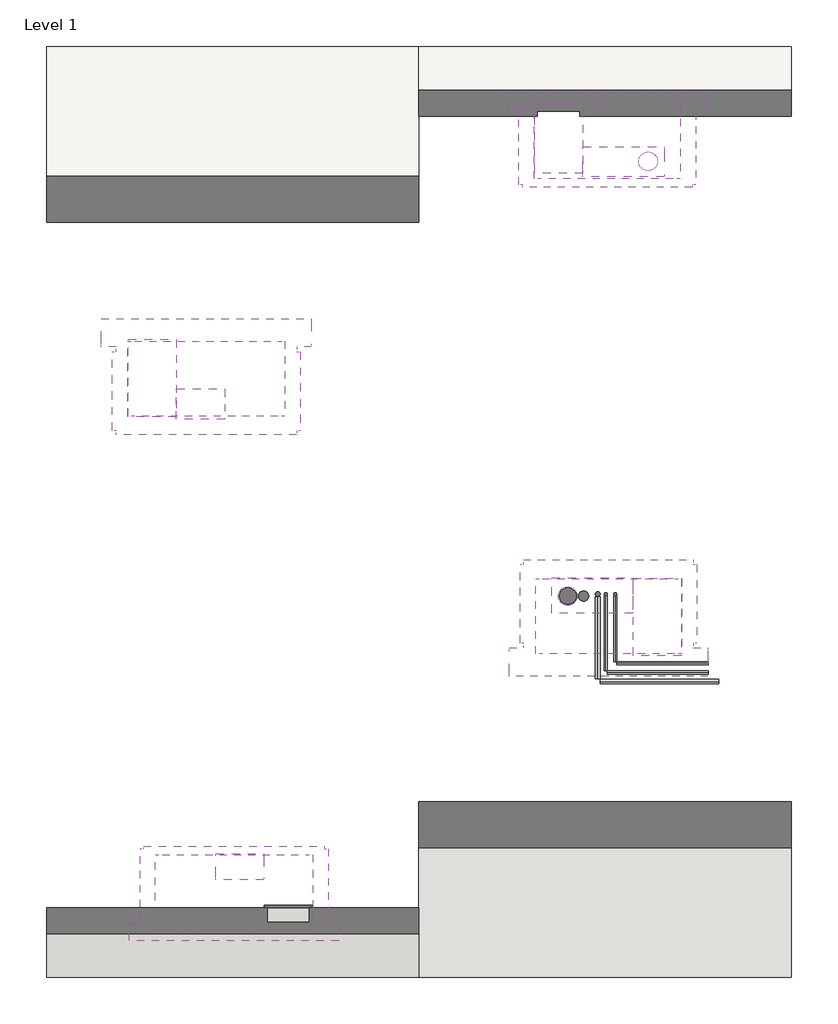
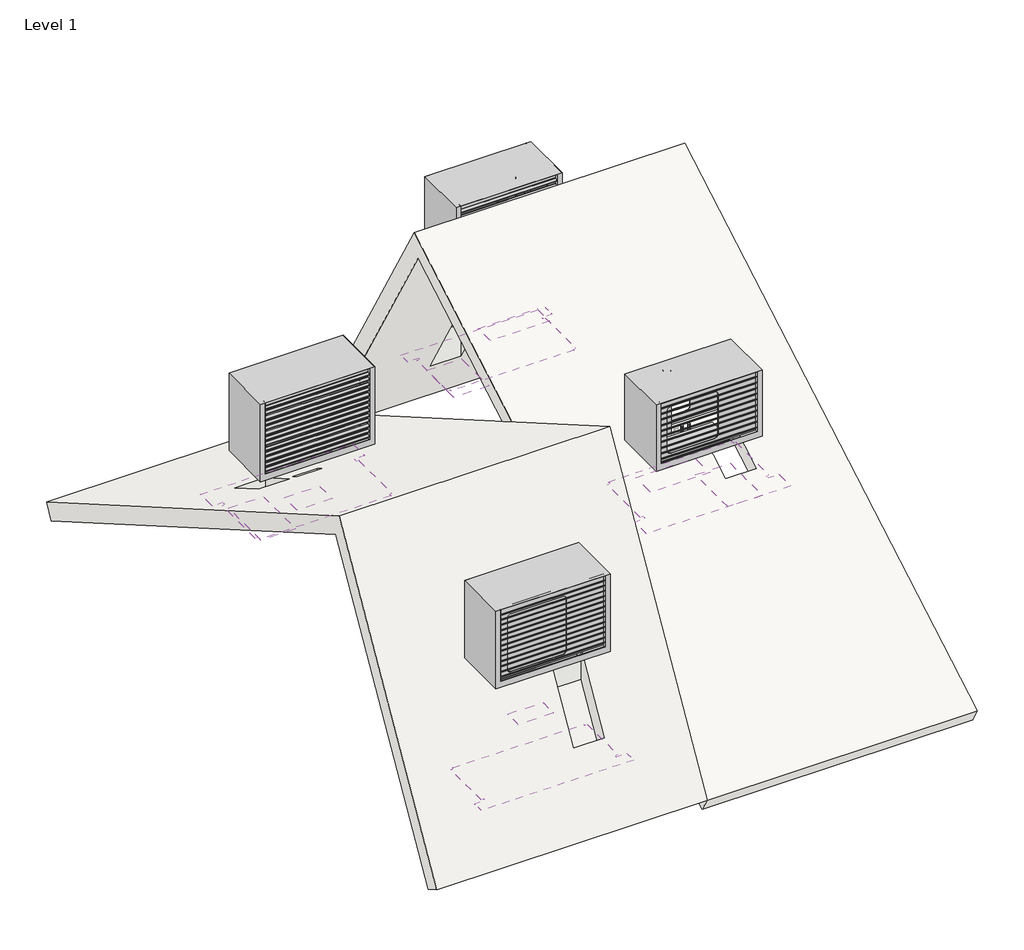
# One storey, incomplete: 12 coverings, 12 pipe segments, 4 unitary equipment elements, 2 roofs, 1 duct segment.
"""IFC4 building model written with IfcOpenShell, lengths in millimetres."""

from ifc_helpers import new_model, si_unit, point, frame, frame_2d, origin, place, context, project, spatial, circle_curve, trimmed, segment, composite_curve, outline, extrude, faceted_brep, transform, mapped, element, save
from components import covering_13abd7a2, covering_e1946cb7, covering_832741f2, covering_2f231527, covering_ebfa055f, covering_0022e7d6, covering_44cbcef2, covering_237e270b, inspection_panel_dda_a83ceb8f, inspection_panel_dda_93841c41, pipe_segment_adc9d0ba, delta_discovery_air_bdbf6794, delta_discovery_air_83ad3b17, delta_discovery_air_xl_f5126de7, delta_discovery_air_xl_14b97afa

model = new_model("IFC4")

# Units and contexts
model_context = context("Model", 3, world=origin())
ifc_project = project(units=[si_unit("LENGTHUNIT", "METRE", prefix="MILLI")], contexts=[model_context])

# Site, building, storey
site = spatial("IfcSite", under=ifc_project)
building = spatial("IfcBuilding", under=site)
storey = spatial("IfcBuildingStorey", under=building, Name="Level 1", Elevation=0.0)

# Coverings
placement = place(None, origin())
covering_shape = covering_13abd7a2(model_context)
element("IfcCovering", 1, ObjectType="MG_BPC_Delta Discovery Air_mountingbox-PA_M&G : mountingbox DDA", at=placement, inside=storey, context=model_context, shape_type="MappedRepresentation", body=[
    mapped(covering_shape, transform((8348.9996074, -2790.8188759, 2443.4405917), x_axis=(0.0, 1.0, 0.0), y_axis=(-1.0, 0.0, 0.0), z_axis=(0.0, 0.0, 1.0))),
])
covering_2_shape = covering_e1946cb7(model_context)
element("IfcCovering", 2, ObjectType="MG_BPC_Delta Discovery Air_mountingbox-PA_M&G : mountingbox DDA-XL", at=placement, inside=storey, context=model_context, shape_type="MappedRepresentation", body=[
    mapped(covering_2_shape, transform((4325.6169231, -5757.5859079, 1391.7305412), x_axis=(0.0, 1.0, 0.0), y_axis=(-1.0, 0.0, 0.0), z_axis=(0.0, 0.0, 1.0))),
])
covering_3_shape = covering_832741f2(model_context)
element("IfcCovering", 3, ObjectType="MG_BPC_Delta Discovery Air_mountingbox-PA_M&G : mountingbox DDA", at=placement, inside=storey, context=model_context, shape_type="MappedRepresentation", body=[
    mapped(covering_3_shape, transform((8335.5299691, 2993.325922, 1571.7305412), x_axis=(0.0, -1.0, 0.0), y_axis=(1.0, 0.0, 0.0), z_axis=(0.0, 0.0, 1.0))),
])
covering_4_shape = covering_2f231527(model_context)
element("IfcCovering", 4, ObjectType="MG_BPC_Delta Discovery Air_mountingbox-PA_M&G : mountingbox DDA-XL", at=placement, inside=storey, context=model_context, shape_type="MappedRepresentation", body=[
    mapped(covering_4_shape, transform((4028.9796779, 442.2510838, 2263.4405917), x_axis=(0.0, -1.0, 0.0), y_axis=(1.0, 0.0, 0.0), z_axis=(0.0, 0.0, 1.0))),
])
covering_5_shape = covering_ebfa055f(model_context)
element("IfcCovering", 5, ObjectType="MG_BPC_Delta Discovery Air_roofboard-PA_M&G : roofboard DDA", at=placement, inside=storey, context=model_context, shape_type="MappedRepresentation", body=[
    mapped(covering_5_shape, transform((8173.9996074, -2235.3633269, 2475.4617163), x_axis=(0.0, 1.0, 0.0), y_axis=(-1.0, 0.0, 0.0), z_axis=(0.0, 0.0, 1.0))),
])
covering_6_shape = covering_0022e7d6(model_context)
element("IfcCovering", 6, ObjectType="MG_BPC_Delta Discovery Air_roofboard-PA_M&G : roofboard DDA-XL", at=placement, inside=storey, context=model_context, shape_type="MappedRepresentation", body=[
    mapped(covering_6_shape, transform((4387.1169231, -5151.0925738, 1942.219356), x_axis=(0.0, 1.0, 0.0), y_axis=(-1.0, 0.0, 0.0), z_axis=(0.0, 0.0, 1.0))),
])
covering_7_shape = covering_44cbcef2(model_context)
element("IfcCovering", 7, ObjectType="MG_BPC_Delta Discovery Air_roofboard-PA_M&G : roofboard DDA", at=placement, inside=storey, context=model_context, shape_type="MappedRepresentation", body=[
    mapped(covering_7_shape, transform((8510.5299691, 2441.3325879, 2027.822587), x_axis=(0.0, -1.0, 0.0), y_axis=(1.0, 0.0, 0.0), z_axis=(0.0, 0.0, 1.0))),
])
covering_8_shape = covering_237e270b(model_context)
element("IfcCovering", 8, ObjectType="MG_BPC_Delta Discovery Air_roofboard-PA_M&G : roofboard DDA-XL", at=placement, inside=storey, context=model_context, shape_type="MappedRepresentation", body=[
    mapped(covering_8_shape, transform((3967.4796779, -166.4650275, 2326.2117163), x_axis=(0.0, -1.0, 0.0), y_axis=(1.0, 0.0, 0.0), z_axis=(0.0, 0.0, 1.0))),
])
inspection_panel_dda_shape = inspection_panel_dda_a83ceb8f(model_context)
element("IfcCovering", 9, ObjectType="MG_BPC_Delta Discovery Air_insp panel-PA_M&G : inspection panel DDA", at=placement, inside=storey, context=model_context, shape_type="MappedRepresentation", body=[
    mapped(inspection_panel_dda_shape, transform((4908.1169231, -5435.0925738, 1450.3169266), x_axis=(0.0, 1.0000000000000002, 0.0), y_axis=(-1.0000000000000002, 0.0, 0.0), z_axis=(0.0, 0.0, 1.0))),
])
element("IfcCovering", 10, ObjectType="MG_BPC_Delta Discovery Air_insp panel-PA_M&G : inspection panel DDA", at=placement, inside=storey, context=model_context, shape_type="MappedRepresentation", body=[
    mapped(inspection_panel_dda_shape, transform((7813.0299691, 2670.8325879, 1630.3169266), x_axis=(0.0, -1.0000000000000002, 0.0), y_axis=(1.0000000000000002, 0.0, 0.0), z_axis=(0.0, 0.0, 1.0))),
])
inspection_panel_dda_2_shape = inspection_panel_dda_93841c41(model_context)
element("IfcCovering", 11, ObjectType="MG_BPC_Delta Discovery Air_insp panel-PA_M&G : inspection panel DDA", at=placement, inside=storey, context=model_context, shape_type="MappedRepresentation", body=[
    mapped(inspection_panel_dda_2_shape, transform((8871.4996074, -2464.4270462, 2343.2117163), x_axis=(0.0, 1.0000000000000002, 0.0), y_axis=(-1.0000000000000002, 0.0, 0.0), z_axis=(0.0, 0.0, 1.0))),
])
element("IfcCovering", 12, ObjectType="MG_BPC_Delta Discovery Air_insp panel-PA_M&G : inspection panel DDA", at=placement, inside=storey, context=model_context, shape_type="MappedRepresentation", body=[
    mapped(inspection_panel_dda_2_shape, transform((3446.4796779, 115.8592541, 2163.2117163), x_axis=(0.0, -1.0000000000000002, 0.0), y_axis=(1.0000000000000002, 0.0, 0.0), z_axis=(0.0, 0.0, 1.0))),
])

# Duct segment
element("IfcDuctSegment", 13, ObjectType="Default", at=placement, inside=storey, context=model_context, shape_type="SweptSolid", body=[
    extrude(outline(composite_curve([segment(trimmed(circle_curve(frame_2d((7910.9996074, -2233.8255417)), 90.0), [point((7910.9996074, -2143.8255417))], [point((8000.9996074, -2233.8255417))], False, "CARTESIAN"), True, "CONTINUOUS"), segment(trimmed(circle_curve(frame_2d((7910.9996074, -2233.8255417)), 90.0), [point((8000.9996074, -2233.8255417))], [point((7910.9996074, -2323.8255417))], False, "CARTESIAN"), True, "CONTINUOUS"), segment(trimmed(circle_curve(frame_2d((7910.9996074, -2233.8255417)), 90.0), [point((7910.9996074, -2323.8255417))], [point((7820.9996074, -2233.8255417))], False, "CARTESIAN"), True, "CONTINUOUS"), segment(trimmed(circle_curve(frame_2d((7910.9996074, -2233.8255417)), 90.0), [point((7820.9996074, -2233.8255417))], [point((7910.9996074, -2143.8255417))], False, "CARTESIAN"), True, "CONTINUOUS")], self_intersect=False)), frame((0.0, 0.0, 464.2186654), z_axis=(0.0, 0.0, 1.0), x_axis=(1.0, 0.0, 0.0)), (0.0, 0.0, 1.0), 1600.0),
])

# Pipe segments
pipe_segment_shape = pipe_segment_adc9d0ba(model_context)
element("IfcPipeSegment", 14, ObjectType="MG_BPC_Delta Discovery Air_pipe extension set-PA_M&G : pipe ext set L=1000mm", at=placement, inside=storey, context=model_context, shape_type="MappedRepresentation", body=[
    mapped(pipe_segment_shape, transform((7910.9996074, -2233.8255417, 3064.2186654), x_axis=(1.0, 0.0, 0.0), y_axis=(0.0, 1.0, 0.0), z_axis=(0.0, 0.0, 1.0))),
])
element("IfcPipeSegment", 15, ObjectType="MG_BPC_Delta Discovery Air_pipe extension set-PA_M&G : pipe ext set L=1000mm", at=placement, inside=storey, context=model_context, shape_type="MappedRepresentation", body=[
    mapped(pipe_segment_shape, transform((8773.5299691, 2436.3325879, 3064.2186654), x_axis=(-1.0, 0.0, 0.0), y_axis=(0.0, -1.0, 0.0), z_axis=(0.0, 0.0, 1.0))),
])
element("IfcPipeSegment", 16, ObjectType="design HDPE", at=placement, inside=storey, context=model_context, shape_type="SweptSolid", body=[
    extrude(outline(composite_curve([segment(trimmed(circle_curve(frame_2d((0.0, 25.0)), 25.0), [point((25.0, 25.0))], [point((0.0, 0.0))], False, "CARTESIAN"), True, "CONTINUOUS"), segment(trimmed(circle_curve(frame_2d((0.0, 25.0)), 25.0), [point((0.0, 0.0))], [point((-25.0, 25.0))], False, "CARTESIAN"), True, "CONTINUOUS"), segment(trimmed(circle_curve(frame_2d((0.0, 25.0)), 25.0), [point((-25.0, 25.0))], [point((0.0, 50.0))], False, "CARTESIAN"), True, "CONTINUOUS"), segment(trimmed(circle_curve(frame_2d((0.0, 25.0)), 25.0), [point((0.0, 50.0))], [point((25.0, 25.0))], False, "CARTESIAN"), True, "CONTINUOUS")], self_intersect=False)), frame((8233.1483535, -3123.4864625, 79.9105492), z_axis=(0.0, 0.9998875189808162, 0.01499831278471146), x_axis=(1.0, 0.0, 0.0)), (0.0, 0.0, 1.0), 882.8884207),
])
element("IfcPipeSegment", 17, ObjectType="design HDPE", at=placement, inside=storey, context=model_context, shape_type="SweptSolid", body=[
    extrude(outline(composite_curve([segment(trimmed(circle_curve(frame_2d((0.0, 25.0)), 25.0), [point((0.0, 50.0))], [point((25.0, 25.0))], False, "CARTESIAN"), True, "CONTINUOUS"), segment(trimmed(circle_curve(frame_2d((0.0, 25.0)), 25.0), [point((25.0, 25.0))], [point((0.0, 0.0))], False, "CARTESIAN"), True, "CONTINUOUS"), segment(trimmed(circle_curve(frame_2d((0.0, 25.0)), 25.0), [point((0.0, 0.0))], [point((-25.0, 25.0))], False, "CARTESIAN"), True, "CONTINUOUS"), segment(trimmed(circle_curve(frame_2d((0.0, 25.0)), 25.0), [point((-25.0, 25.0))], [point((0.0, 50.0))], False, "CARTESIAN"), True, "CONTINUOUS")], self_intersect=False)), frame((9532.7089192, -3176.1083553, 35.0), z_axis=(-0.9998875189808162, 0.0, 0.014998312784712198), x_axis=(0.014998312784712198, 0.0, 0.9998875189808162)), (0.0, 0.0, 1.0), 1271.706758),
])
element("IfcPipeSegment", 18, ObjectType="design HDPE", at=placement, inside=storey, context=model_context, shape_type="SweptSolid", body=[
    extrude(outline(composite_curve([segment(trimmed(circle_curve(frame_2d((8232.9996074, -2212.3255417)), 25.0), [point((8257.9996074, -2212.3255417))], [point((8232.9996074, -2237.3255417))], False, "CARTESIAN"), True, "CONTINUOUS"), segment(trimmed(circle_curve(frame_2d((8232.9996074, -2212.3255417)), 25.0), [point((8232.9996074, -2237.3255417))], [point((8207.9996074, -2212.3255417))], False, "CARTESIAN"), True, "CONTINUOUS"), segment(trimmed(circle_curve(frame_2d((8232.9996074, -2212.3255417)), 25.0), [point((8207.9996074, -2212.3255417))], [point((8232.9996074, -2187.3255417))], False, "CARTESIAN"), True, "CONTINUOUS"), segment(trimmed(circle_curve(frame_2d((8232.9996074, -2212.3255417)), 25.0), [point((8232.9996074, -2187.3255417))], [point((8257.9996074, -2212.3255417))], False, "CARTESIAN"), True, "CONTINUOUS")], self_intersect=False)), frame((0.0, 0.0, 96.5751507), z_axis=(0.0, 0.0, 1.0), x_axis=(1.0, 0.0, 0.0)), (0.0, 0.0, 1.0), 1967.6435147),
])
element("IfcPipeSegment", 19, ObjectType="design HDPE", at=placement, inside=storey, context=model_context, shape_type="SweptSolid", body=[
    extrude(outline(composite_curve([segment(trimmed(circle_curve(frame_2d((8080.9996074, -2233.8255417)), 55.0), [point((8135.9996074, -2233.8255417))], [point((8080.9996074, -2288.8255417))], False, "CARTESIAN"), True, "CONTINUOUS"), segment(trimmed(circle_curve(frame_2d((8080.9996074, -2233.8255417)), 55.0), [point((8080.9996074, -2288.8255417))], [point((8025.9996074, -2233.8255417))], False, "CARTESIAN"), True, "CONTINUOUS"), segment(trimmed(circle_curve(frame_2d((8080.9996074, -2233.8255417)), 55.0), [point((8025.9996074, -2233.8255417))], [point((8080.9996074, -2178.8255417))], False, "CARTESIAN"), True, "CONTINUOUS"), segment(trimmed(circle_curve(frame_2d((8080.9996074, -2233.8255417)), 55.0), [point((8080.9996074, -2178.8255417))], [point((8135.9996074, -2233.8255417))], False, "CARTESIAN"), True, "CONTINUOUS")], self_intersect=False)), frame((0.0, 0.0, 264.2186654), z_axis=(0.0, 0.0, 1.0), x_axis=(1.0, 0.0, 0.0)), (0.0, 0.0, 1.0), 1800.0),
])
element("IfcPipeSegment", 20, ObjectType="design steel pipes", at=placement, inside=storey, context=model_context, shape_type="SweptSolid", body=[
    extrude(outline(composite_curve([segment(trimmed(circle_curve(frame_2d((8419.9996074, -2212.3255417)), 16.85), [point((8436.8496074, -2212.3255417))], [point((8419.9996074, -2229.1755417))], False, "CARTESIAN"), True, "CONTINUOUS"), segment(trimmed(circle_curve(frame_2d((8419.9996074, -2212.3255417)), 16.85), [point((8419.9996074, -2229.1755417))], [point((8403.1496074, -2212.3255417))], False, "CARTESIAN"), True, "CONTINUOUS"), segment(trimmed(circle_curve(frame_2d((8419.9996074, -2212.3255417)), 16.85), [point((8403.1496074, -2212.3255417))], [point((8419.9996074, -2195.4755417))], False, "CARTESIAN"), True, "CONTINUOUS"), segment(trimmed(circle_curve(frame_2d((8419.9996074, -2212.3255417)), 16.85), [point((8419.9996074, -2195.4755417))], [point((8436.8496074, -2212.3255417))], False, "CARTESIAN"), True, "CONTINUOUS")], self_intersect=False)), frame((0.0, 0.0, 42.5), z_axis=(0.0, 0.0, 1.0), x_axis=(1.0, 0.0, 0.0)), (0.0, 0.0, 1.0), 3013.9759803),
])
element("IfcPipeSegment", 21, ObjectType="design steel pipes", at=placement, inside=storey, context=model_context, shape_type="SweptSolid", body=[
    extrude(outline(composite_curve([segment(trimmed(circle_curve(frame_2d((25.0, 8419.9996074)), 16.85), [point((25.0, 8403.1496074))], [point((8.15, 8419.9996074))], False, "CARTESIAN"), True, "CONTINUOUS"), segment(trimmed(circle_curve(frame_2d((25.0, 8419.9996074)), 16.85), [point((8.15, 8419.9996074))], [point((25.0, 8436.8496074))], False, "CARTESIAN"), True, "CONTINUOUS"), segment(trimmed(circle_curve(frame_2d((25.0, 8419.9996074)), 16.85), [point((25.0, 8436.8496074))], [point((41.85, 8419.9996074))], False, "CARTESIAN"), True, "CONTINUOUS"), segment(trimmed(circle_curve(frame_2d((25.0, 8419.9996074)), 16.85), [point((41.85, 8419.9996074))], [point((25.0, 8403.1496074))], False, "CARTESIAN"), True, "CONTINUOUS")], self_intersect=False)), frame((0.0, -2937.1300034, 0.0), z_axis=(0.0, 1.0, 0.0), x_axis=(0.0, 0.0, 1.0)), (0.0, 0.0, 1.0), 707.3044617),
])
element("IfcPipeSegment", 22, ObjectType="design steel pipes", at=placement, inside=storey, context=model_context, shape_type="SweptSolid", body=[
    extrude(outline(composite_curve([segment(trimmed(circle_curve(frame_2d((0.0, 16.8499999)), 16.85), [point((-16.85, 16.8499999))], [point((0.0, 33.6999999))], False, "CARTESIAN"), True, "CONTINUOUS"), segment(trimmed(circle_curve(frame_2d((0.0, 16.8499999)), 16.85), [point((0.0, 33.6999999))], [point((16.85, 16.8499999))], False, "CARTESIAN"), True, "CONTINUOUS"), segment(trimmed(circle_curve(frame_2d((0.0, 16.8499999)), 16.85), [point((16.85, 16.8499999))], [point((0.0, 0.0))], False, "CARTESIAN"), True, "CONTINUOUS"), segment(trimmed(circle_curve(frame_2d((0.0, 16.8499999)), 16.85), [point((0.0, 0.0))], [point((-16.85, 16.8499999))], False, "CARTESIAN"), True, "CONTINUOUS")], self_intersect=False)), frame((8437.5000121, -2954.6300034, 8.1504204), z_axis=(0.9999999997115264, 0.0, 2.401972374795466e-05), x_axis=(0.0, 1.0, 0.0)), (0.0, 0.0, 1.0), 982.5446402),
])
element("IfcPipeSegment", 23, ObjectType="design steel pipes", at=placement, inside=storey, context=model_context, shape_type="SweptSolid", body=[
    extrude(outline(composite_curve([segment(trimmed(circle_curve(frame_2d((8319.9996074, -2212.3255417)), 16.85), [point((8303.1496074, -2212.3255417))], [point((8319.9996074, -2195.4755417))], False, "CARTESIAN"), True, "CONTINUOUS"), segment(trimmed(circle_curve(frame_2d((8319.9996074, -2212.3255417)), 16.85), [point((8319.9996074, -2195.4755417))], [point((8336.8496074, -2212.3255417))], False, "CARTESIAN"), True, "CONTINUOUS"), segment(trimmed(circle_curve(frame_2d((8319.9996074, -2212.3255417)), 16.85), [point((8336.8496074, -2212.3255417))], [point((8319.9996074, -2229.1755417))], False, "CARTESIAN"), True, "CONTINUOUS"), segment(trimmed(circle_curve(frame_2d((8319.9996074, -2212.3255417)), 16.85), [point((8319.9996074, -2229.1755417))], [point((8303.1496074, -2212.3255417))], False, "CARTESIAN"), True, "CONTINUOUS")], self_intersect=False)), frame((0.0, 0.0, 42.5), z_axis=(0.0, 0.0, 1.0), x_axis=(1.0, 0.0, 0.0)), (0.0, 0.0, 1.0), 3013.9759803),
])
element("IfcPipeSegment", 24, ObjectType="design steel pipes", at=placement, inside=storey, context=model_context, shape_type="SweptSolid", body=[
    extrude(outline(composite_curve([segment(trimmed(circle_curve(frame_2d((25.0, 8319.9996074)), 16.85), [point((25.0, 8303.1496074))], [point((8.15, 8319.9996074))], False, "CARTESIAN"), True, "CONTINUOUS"), segment(trimmed(circle_curve(frame_2d((25.0, 8319.9996074)), 16.85), [point((8.15, 8319.9996074))], [point((25.0, 8336.8496074))], False, "CARTESIAN"), True, "CONTINUOUS"), segment(trimmed(circle_curve(frame_2d((25.0, 8319.9996074)), 16.85), [point((25.0, 8336.8496074))], [point((41.85, 8319.9996074))], False, "CARTESIAN"), True, "CONTINUOUS"), segment(trimmed(circle_curve(frame_2d((25.0, 8319.9996074)), 16.85), [point((41.85, 8319.9996074))], [point((25.0, 8303.1496074))], False, "CARTESIAN"), True, "CONTINUOUS")], self_intersect=False)), frame((0.0, -3037.1300034, 0.0), z_axis=(0.0, 1.0, 0.0), x_axis=(0.0, 0.0, 1.0)), (0.0, 0.0, 1.0), 807.3044617),
])
element("IfcPipeSegment", 25, ObjectType="design steel pipes", at=placement, inside=storey, context=model_context, shape_type="SweptSolid", body=[
    extrude(outline(composite_curve([segment(trimmed(circle_curve(frame_2d((0.0, 16.8499999)), 16.85), [point((-16.85, 16.8499999))], [point((0.0, 33.6999999))], False, "CARTESIAN"), True, "CONTINUOUS"), segment(trimmed(circle_curve(frame_2d((0.0, 16.8499999)), 16.85), [point((0.0, 33.6999999))], [point((16.85, 16.8499999))], False, "CARTESIAN"), True, "CONTINUOUS"), segment(trimmed(circle_curve(frame_2d((0.0, 16.8499999)), 16.85), [point((16.85, 16.8499999))], [point((0.0, 0.0))], False, "CARTESIAN"), True, "CONTINUOUS"), segment(trimmed(circle_curve(frame_2d((0.0, 16.8499999)), 16.85), [point((0.0, 0.0))], [point((-16.85, 16.8499999))], False, "CARTESIAN"), True, "CONTINUOUS")], self_intersect=False)), frame((8337.5000121, -3054.6300034, 8.1504204), z_axis=(0.9999999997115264, 0.0, 2.401972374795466e-05), x_axis=(0.0, 1.0, 0.0)), (0.0, 0.0, 1.0), 1082.5446402),
])

# Roofs
element("IfcRoof", 26, ObjectType="Roof 1", at=placement, inside=storey, context=model_context, shape_type="Brep", body=[
    faceted_brep([(2311.6571684, -6330.1684687, 400.0), (2311.6571684, -3830.1684687, 4730.1270189), (2311.6571684, 3669.8315313, 400.0), (2311.6571684, 3544.8315313, 183.4936491), (2311.6571684, -3738.6621178, 4388.620668), (2311.6571684, -6113.6621178, 275.0), (6311.6571684, -3830.1684687, 4730.1270189), (6311.6571684, -6330.1684687, 400.0), (6311.6571684, -6113.6621178, 275.0), (6311.6571684, -3738.6621178, 4388.620668), (6311.6571684, 3544.8315313, 183.4936491), (6311.6571684, 3669.8315313, 400.0), (5135.6169231, -5132.5925738, 2474.2622959), (5135.6169231, -5737.5925738, 1426.3715573), (4680.6169231, -5737.5925738, 1426.3715573), (4680.6169231, -5132.5925738, 2474.2622959), (4582.6169231, -5091.0925738, 2546.1424044), (4582.6169231, -5211.0925738, 2338.2963075), (4219.6169231, -5211.0925738, 2338.2963075), (4219.6169231, -5091.0925738, 2546.1424044), (3218.9796779, -186.8166245, 2626.6368509), (3218.9796779, 418.5351327, 2277.1368509), (3673.9796779, 418.5351327, 2277.1368509), (3673.9796779, -186.8166245, 2626.6368509), (3771.9796779, -226.6537931, 2649.6368509), (3771.9796779, -106.276262, 2580.1368509), (4134.9796779, -106.276262, 2580.1368509), (4134.9796779, -226.6537931, 2649.6368509), (3218.9796779, 418.5351327, 1988.4617163), (3218.9796779, -186.8166245, 2337.9617163), (3673.9796779, -186.8166245, 2337.9617163), (3673.9796779, 418.5351327, 1988.4617163), (3771.9796779, -106.276262, 2291.4617163), (3771.9796779, -226.6537931, 2360.9617163), (4134.9796779, -226.6537931, 2360.9617163), (4134.9796779, -106.276262, 2291.4617163), (5135.6169231, -5737.5925738, 926.3715573), (5135.6169231, -5132.5925738, 1974.2622959), (4680.6169231, -5132.5925738, 1974.2622959), (4680.6169231, -5737.5925738, 926.3715573), (4582.6169231, -5211.0925738, 1838.2963075), (4582.6169231, -5091.0925738, 2046.1424044), (4219.6169231, -5091.0925738, 2046.1424044), (4219.6169231, -5211.0925738, 1838.2963075)], [[[0, 1, 2, 3, 4, 5]], [[6, 7, 8, 9, 10, 11]], [[1, 0, 7, 6], [12, 13, 14, 15], [16, 17, 18, 19]], [[2, 1, 6, 11], [20, 21, 22, 23], [24, 25, 26, 27]], [[9, 4, 3, 10], [28, 29, 30, 31], [32, 33, 34, 35]], [[4, 9, 8, 5], [36, 37, 38, 39], [40, 41, 42, 43]], [[3, 2, 11, 10]], [[0, 5, 8, 7]], [[36, 13, 12, 37]], [[38, 15, 14, 39]], [[37, 12, 15, 38]], [[13, 36, 39, 14]], [[40, 17, 16, 41]], [[42, 19, 18, 43]], [[41, 16, 19, 42]], [[17, 40, 43, 18]], [[28, 21, 20, 29]], [[30, 23, 22, 31]], [[29, 20, 23, 30]], [[21, 28, 31, 22]], [[32, 25, 24, 33]], [[34, 27, 26, 35]], [[33, 24, 27, 34]], [[25, 32, 35, 26]]]),
])
element("IfcRoof", 27, ObjectType="Roof 1", at=placement, inside=storey, context=model_context, shape_type="Brep", body=[
    faceted_brep([(10311.6571684, 3669.8315313, 400.0), (10311.6571684, 1169.8315313, 4730.1270189), (10311.6571684, -6330.1684687, 400.0), (10311.6571684, -6205.1684687, 183.4936491), (10311.6571684, 1078.3251803, 4388.620668), (10311.6571684, 3453.3251803, 275.0), (6311.6571684, 1169.8315313, 4730.1270189), (6311.6571684, 3669.8315313, 400.0), (6311.6571684, 3453.3251803, 275.0), (6311.6571684, 1078.3251803, 4388.620668), (6311.6571684, -6205.1684687, 183.4936491), (6311.6571684, -6330.1684687, 400.0), (7585.5299691, 2368.3325879, 2654.2622959), (7585.5299691, 2973.3325879, 1606.3715573), (8040.5299691, 2973.3325879, 1606.3715573), (8040.5299691, 2368.3325879, 2654.2622959), (8142.5299691, 2331.3325879, 2718.3481758), (8142.5299691, 2551.3325879, 2337.2969981), (8884.5299691, 2551.3325879, 2337.2969981), (8884.5299691, 2331.3325879, 2718.3481758), (9098.9996074, -2161.7511676, 2806.6368509), (9098.9996074, -2767.1029248, 2457.1368509), (8643.9996074, -2767.1029248, 2457.1368509), (8643.9996074, -2161.7511676, 2806.6368509), (8541.9996074, -2125.3781006, 2827.6368509), (8541.9996074, -2345.3485532, 2700.6368509), (7799.9996074, -2345.3485532, 2700.6368509), (7799.9996074, -2125.3781006, 2827.6368509), (9098.9996074, -2767.1029248, 2168.4617163), (9098.9996074, -2161.7511676, 2517.9617163), (8643.9996074, -2161.7511676, 2517.9617163), (8643.9996074, -2767.1029248, 2168.4617163), (8541.9996074, -2345.3485532, 2411.9617163), (8541.9996074, -2125.3781006, 2538.9617163), (7799.9996074, -2125.3781006, 2538.9617163), (7799.9996074, -2345.3485532, 2411.9617163), (7585.5299691, 2973.3325879, 1106.3715573), (7585.5299691, 2368.3325879, 2154.2622959), (8040.5299691, 2368.3325879, 2154.2622959), (8040.5299691, 2973.3325879, 1106.3715573), (8142.5299691, 2551.3325879, 1837.2969981), (8142.5299691, 2331.3325879, 2218.3481758), (8884.5299691, 2331.3325879, 2218.3481758), (8884.5299691, 2551.3325879, 1837.2969981)], [[[0, 1, 2, 3, 4, 5]], [[6, 7, 8, 9, 10, 11]], [[1, 0, 7, 6], [12, 13, 14, 15], [16, 17, 18, 19]], [[2, 1, 6, 11], [20, 21, 22, 23], [24, 25, 26, 27]], [[9, 4, 3, 10], [28, 29, 30, 31], [32, 33, 34, 35]], [[4, 9, 8, 5], [36, 37, 38, 39], [40, 41, 42, 43]], [[3, 2, 11, 10]], [[0, 5, 8, 7]], [[28, 21, 20, 29]], [[30, 23, 22, 31]], [[29, 20, 23, 30]], [[21, 28, 31, 22]], [[32, 25, 24, 33]], [[34, 27, 26, 35]], [[33, 24, 27, 34]], [[25, 32, 35, 26]], [[36, 13, 12, 37]], [[38, 15, 14, 39]], [[37, 12, 15, 38]], [[13, 36, 39, 14]], [[40, 17, 16, 41]], [[42, 19, 18, 43]], [[41, 16, 19, 42]], [[17, 40, 43, 18]]]),
])

# Unitary equipment
delta_discovery_air_shape = delta_discovery_air_bdbf6794(model_context)
element("IfcUnitaryEquipment", 28, ObjectType="MG_BPC_Delta Discovery Air_M&G : Delta Discovery Air", at=placement, inside=storey, context=model_context, shape_type="MappedRepresentation", body=[
    mapped(delta_discovery_air_shape, transform((8348.9996074, -2048.3255417, 2872.1231665), x_axis=(1.0, 0.0, 0.0), y_axis=(0.0, 1.0, 0.0), z_axis=(0.0, 0.0, 1.0))),
])
delta_discovery_air_2_shape = delta_discovery_air_83ad3b17(model_context)
element("IfcUnitaryEquipment", 29, ObjectType="MG_BPC_Delta Discovery Air_M&G : Delta Discovery Air", at=placement, inside=storey, context=model_context, shape_type="MappedRepresentation", body=[
    mapped(delta_discovery_air_2_shape, transform((8335.5299691, 2250.8325879, 2857.7782658), x_axis=(-1.0, 0.0, 0.0), y_axis=(0.0, -1.0, 0.0), z_axis=(0.0, 0.0, 1.0))),
])
delta_discovery_air_xl_shape = delta_discovery_air_xl_f5126de7(model_context)
element("IfcUnitaryEquipment", 30, ObjectType="MG_BPC_Delta Discovery Air_M&G : Delta Discovery Air-XL", at=placement, inside=storey, context=model_context, shape_type="MappedRepresentation", body=[
    mapped(delta_discovery_air_xl_shape, transform((4325.6169231, -5015.0925738, 2677.7782658), x_axis=(1.0, 0.0, 0.0), y_axis=(0.0, 1.0, 0.0), z_axis=(0.0, 0.0, 1.0))),
])
delta_discovery_air_xl_2_shape = delta_discovery_air_xl_14b97afa(model_context)
element("IfcUnitaryEquipment", 31, ObjectType="MG_BPC_Delta Discovery Air_M&G : Delta Discovery Air-XL", at=placement, inside=storey, context=model_context, shape_type="MappedRepresentation", body=[
    mapped(delta_discovery_air_xl_2_shape, transform((4028.9796779, -300.2422504, 2692.1231665), x_axis=(-1.0, 0.0, 0.0), y_axis=(0.0, -1.0, 0.0), z_axis=(0.0, 0.0, 1.0))),
])

save(model, "model.ifc")
